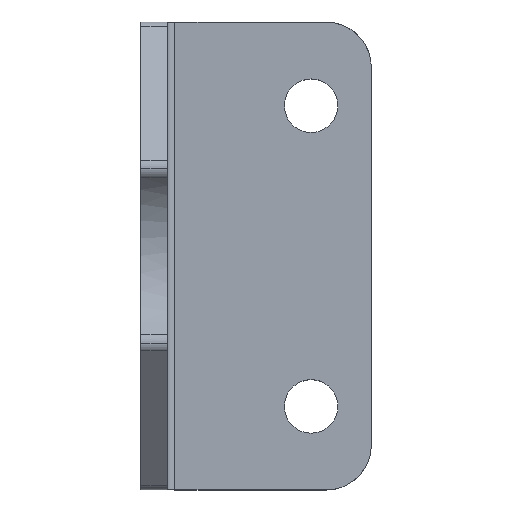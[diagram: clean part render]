
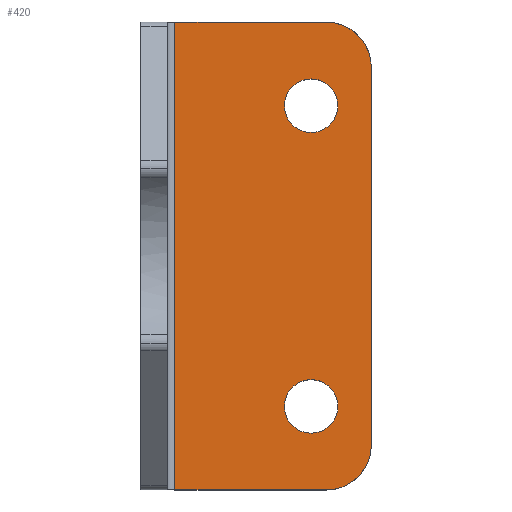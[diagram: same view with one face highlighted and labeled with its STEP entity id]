
A CAD part, top view. The second image highlights one B-rep face of the part: STEP entity #420.
In plain terms, the highlighted planar face has unit normal (0, 0, 1).
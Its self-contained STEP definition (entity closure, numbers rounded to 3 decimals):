
#56=CARTESIAN_POINT('Axis2P3D Location',(51.,-45.,6.)) ;
#60=CARTESIAN_POINT('Vertex',(51.,-37.,6.)) ;
#62=CARTESIAN_POINT('Vertex',(43.,-45.,6.)) ;
#102=CARTESIAN_POINT('Vertex',(59.,-45.,6.)) ;
#105=CARTESIAN_POINT('Axis2P3D Location',(51.,-45.,6.)) ;
#128=CARTESIAN_POINT('Vertex',(51.,-53.,6.)) ;
#131=CARTESIAN_POINT('Axis2P3D Location',(51.,-45.,6.)) ;
#153=CARTESIAN_POINT('Axis2P3D Location',(51.,-45.,6.)) ;
#270=CARTESIAN_POINT('Vertex',(43.,45.,6.)) ;
#273=CARTESIAN_POINT('Axis2P3D Location',(51.,45.,6.)) ;
#277=CARTESIAN_POINT('Vertex',(51.,37.,6.)) ;
#297=CARTESIAN_POINT('Axis2P3D Location',(51.,45.,6.)) ;
#301=CARTESIAN_POINT('Vertex',(51.,53.,6.)) ;
#320=CARTESIAN_POINT('Vertex',(59.,45.,6.)) ;
#323=CARTESIAN_POINT('Axis2P3D Location',(51.,45.,6.)) ;
#335=CARTESIAN_POINT('Axis2P3D Location',(51.,45.,6.)) ;
#347=CARTESIAN_POINT('Axis2P3D Location',(0.,0.,6.)) ;
#353=CARTESIAN_POINT('Control Point',(55.5,-70.,6.)) ;
#354=CARTESIAN_POINT('Control Point',(59.741,-70.,6.)) ;
#355=CARTESIAN_POINT('Control Point',(63.986,-68.339,6.)) ;
#356=CARTESIAN_POINT('Control Point',(67.339,-64.986,6.)) ;
#357=CARTESIAN_POINT('Control Point',(69.,-60.741,6.)) ;
#358=CARTESIAN_POINT('Control Point',(69.,-56.5,6.)) ;
#359=CARTESIAN_POINT('Vertex',(55.5,-70.,6.)) ;
#361=CARTESIAN_POINT('Vertex',(69.,-56.5,6.)) ;
#364=CARTESIAN_POINT('Line Origine',(69.,0.,6.)) ;
#368=CARTESIAN_POINT('Vertex',(69.,56.5,6.)) ;
#372=CARTESIAN_POINT('Control Point',(69.,56.5,6.)) ;
#373=CARTESIAN_POINT('Control Point',(69.,60.741,6.)) ;
#374=CARTESIAN_POINT('Control Point',(67.339,64.986,6.)) ;
#375=CARTESIAN_POINT('Control Point',(63.986,68.339,6.)) ;
#376=CARTESIAN_POINT('Control Point',(59.741,70.,6.)) ;
#377=CARTESIAN_POINT('Control Point',(55.5,70.,6.)) ;
#378=CARTESIAN_POINT('Vertex',(55.5,70.,6.)) ;
#381=CARTESIAN_POINT('Line Origine',(39.625,70.,6.)) ;
#385=CARTESIAN_POINT('Vertex',(10.25,70.,6.)) ;
#388=CARTESIAN_POINT('Line Origine',(10.25,0.,6.)) ;
#392=CARTESIAN_POINT('Vertex',(10.25,-70.,6.)) ;
#395=CARTESIAN_POINT('Line Origine',(39.625,-70.,6.)) ;
#57=DIRECTION('Axis2P3D Direction',(0.,0.,1.)) ;
#106=DIRECTION('Axis2P3D Direction',(0.,0.,1.)) ;
#132=DIRECTION('Axis2P3D Direction',(0.,0.,1.)) ;
#154=DIRECTION('Axis2P3D Direction',(0.,0.,1.)) ;
#274=DIRECTION('Axis2P3D Direction',(0.,0.,1.)) ;
#298=DIRECTION('Axis2P3D Direction',(0.,0.,1.)) ;
#324=DIRECTION('Axis2P3D Direction',(0.,0.,1.)) ;
#336=DIRECTION('Axis2P3D Direction',(0.,0.,1.)) ;
#348=DIRECTION('Axis2P3D Direction',(0.,0.,1.)) ;
#349=DIRECTION('Axis2P3D XDirection',(0.,-1.,0.)) ;
#365=DIRECTION('Vector Direction',(0.,-1.,0.)) ;
#382=DIRECTION('Vector Direction',(1.,0.,0.)) ;
#389=DIRECTION('Vector Direction',(0.,-1.,0.)) ;
#396=DIRECTION('Vector Direction',(1.,0.,0.)) ;
#58=AXIS2_PLACEMENT_3D('Circle Axis2P3D',#56,#57,$) ;
#107=AXIS2_PLACEMENT_3D('Circle Axis2P3D',#105,#106,$) ;
#133=AXIS2_PLACEMENT_3D('Circle Axis2P3D',#131,#132,$) ;
#155=AXIS2_PLACEMENT_3D('Circle Axis2P3D',#153,#154,$) ;
#275=AXIS2_PLACEMENT_3D('Circle Axis2P3D',#273,#274,$) ;
#299=AXIS2_PLACEMENT_3D('Circle Axis2P3D',#297,#298,$) ;
#325=AXIS2_PLACEMENT_3D('Circle Axis2P3D',#323,#324,$) ;
#337=AXIS2_PLACEMENT_3D('Circle Axis2P3D',#335,#336,$) ;
#350=AXIS2_PLACEMENT_3D('Plane Axis2P3D',#347,#348,#349) ;
#401=ORIENTED_EDGE('',*,*,#363,.T.) ;
#402=ORIENTED_EDGE('',*,*,#370,.T.) ;
#403=ORIENTED_EDGE('',*,*,#380,.T.) ;
#404=ORIENTED_EDGE('',*,*,#387,.T.) ;
#405=ORIENTED_EDGE('',*,*,#394,.F.) ;
#406=ORIENTED_EDGE('',*,*,#399,.F.) ;
#409=ORIENTED_EDGE('',*,*,#135,.F.) ;
#410=ORIENTED_EDGE('',*,*,#157,.F.) ;
#411=ORIENTED_EDGE('',*,*,#64,.F.) ;
#412=ORIENTED_EDGE('',*,*,#109,.F.) ;
#415=ORIENTED_EDGE('',*,*,#339,.F.) ;
#416=ORIENTED_EDGE('',*,*,#279,.F.) ;
#417=ORIENTED_EDGE('',*,*,#303,.F.) ;
#418=ORIENTED_EDGE('',*,*,#327,.F.) ;
#413=FACE_BOUND('',#408,.T.) ;
#419=FACE_BOUND('',#414,.T.) ;
#366=VECTOR('Line Direction',#365,1.) ;
#383=VECTOR('Line Direction',#382,1.) ;
#390=VECTOR('Line Direction',#389,1.) ;
#397=VECTOR('Line Direction',#396,1.) ;
#420=ADVANCED_FACE('PartBody',(#407,#413,#419),#351,.T.) ;
#352=B_SPLINE_CURVE_WITH_KNOTS('',5,(#353,#354,#355,#356,#357,#358),.UNSPECIFIED.,.F.,.U.,(6,6),(0.,21.206),.UNSPECIFIED.) ;
#371=B_SPLINE_CURVE_WITH_KNOTS('',5,(#372,#373,#374,#375,#376,#377),.UNSPECIFIED.,.F.,.U.,(6,6),(21.206,42.412),.UNSPECIFIED.) ;
#59=CIRCLE('generated circle',#58,8.) ;
#108=CIRCLE('generated circle',#107,8.) ;
#134=CIRCLE('generated circle',#133,8.) ;
#156=CIRCLE('generated circle',#155,8.) ;
#276=CIRCLE('generated circle',#275,8.) ;
#300=CIRCLE('generated circle',#299,8.) ;
#326=CIRCLE('generated circle',#325,8.) ;
#338=CIRCLE('generated circle',#337,8.) ;
#64=EDGE_CURVE('',#61,#63,#59,.T.) ;
#109=EDGE_CURVE('',#103,#61,#108,.T.) ;
#135=EDGE_CURVE('',#129,#103,#134,.T.) ;
#157=EDGE_CURVE('',#63,#129,#156,.T.) ;
#279=EDGE_CURVE('',#271,#278,#276,.T.) ;
#303=EDGE_CURVE('',#302,#271,#300,.T.) ;
#327=EDGE_CURVE('',#321,#302,#326,.T.) ;
#339=EDGE_CURVE('',#278,#321,#338,.T.) ;
#363=EDGE_CURVE('',#360,#362,#352,.T.) ;
#370=EDGE_CURVE('',#362,#369,#367,.F.) ;
#380=EDGE_CURVE('',#369,#379,#371,.T.) ;
#387=EDGE_CURVE('',#379,#386,#384,.F.) ;
#394=EDGE_CURVE('',#393,#386,#391,.F.) ;
#399=EDGE_CURVE('',#360,#393,#398,.F.) ;
#400=EDGE_LOOP('',(#401,#402,#403,#404,#405,#406)) ;
#408=EDGE_LOOP('',(#409,#410,#411,#412)) ;
#414=EDGE_LOOP('',(#415,#416,#417,#418)) ;
#407=FACE_OUTER_BOUND('',#400,.T.) ;
#367=LINE('Line',#364,#366) ;
#384=LINE('Line',#381,#383) ;
#391=LINE('Line',#388,#390) ;
#398=LINE('Line',#395,#397) ;
#351=PLANE('',#350) ;
#61=VERTEX_POINT('',#60) ;
#63=VERTEX_POINT('',#62) ;
#103=VERTEX_POINT('',#102) ;
#129=VERTEX_POINT('',#128) ;
#271=VERTEX_POINT('',#270) ;
#278=VERTEX_POINT('',#277) ;
#302=VERTEX_POINT('',#301) ;
#321=VERTEX_POINT('',#320) ;
#360=VERTEX_POINT('',#359) ;
#362=VERTEX_POINT('',#361) ;
#369=VERTEX_POINT('',#368) ;
#379=VERTEX_POINT('',#378) ;
#386=VERTEX_POINT('',#385) ;
#393=VERTEX_POINT('',#392) ;
